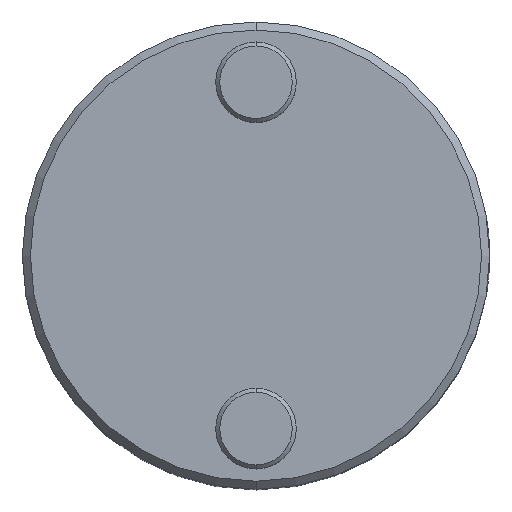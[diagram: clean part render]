
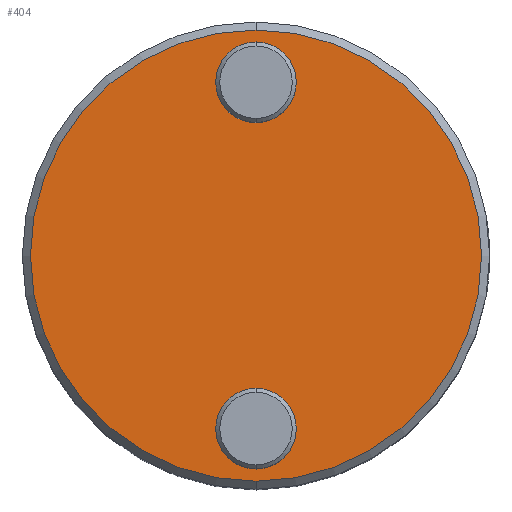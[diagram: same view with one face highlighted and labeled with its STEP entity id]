
A CAD part, top view. The second image highlights one B-rep face of the part: STEP entity #404.
In plain terms, the highlighted planar face has unit normal (0, 0, 1).
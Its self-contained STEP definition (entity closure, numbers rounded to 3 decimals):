
#1=CARTESIAN_POINT('',(0.,0.,
0.));
#2=DIRECTION('',(0.,0.,1.));
#3=DIRECTION('',(0.,1.,0.));
#4=AXIS2_PLACEMENT_3D('',#1,#2,#3);
#6=CARTESIAN_POINT('',(0.,0.,
0.));
#7=DIRECTION('',(0.,0.,1.));
#8=DIRECTION('',(0.,-1.,0.));
#9=AXIS2_PLACEMENT_3D('',#6,#7,#8);
#11=CARTESIAN_POINT('',(0.,21.5,0.));
#12=DIRECTION('',(0.,0.,1.));
#13=DIRECTION('',(0.,1.,0.));
#14=AXIS2_PLACEMENT_3D('',#11,#12,#13);
#16=CARTESIAN_POINT('',(0.,21.5,0.));
#17=DIRECTION('',(0.,0.,1.));
#18=DIRECTION('',(0.,-1.,0.));
#19=AXIS2_PLACEMENT_3D('',#16,#17,#18);
#21=CARTESIAN_POINT('',(0.,-21.5,0.));
#22=DIRECTION('',(0.,0.,1.));
#23=DIRECTION('',(0.,1.,0.));
#24=AXIS2_PLACEMENT_3D('',#21,#22,#23);
#26=CARTESIAN_POINT('',(0.,-21.5,0.));
#27=DIRECTION('',(0.,0.,1.));
#28=DIRECTION('',(0.,-1.,0.));
#29=AXIS2_PLACEMENT_3D('',#26,#27,#28);
#331=CARTESIAN_POINT('',(0.,28.,0.));
#332=CARTESIAN_POINT('',(0.,-28.,0.));
#333=VERTEX_POINT('',#331);
#334=VERTEX_POINT('',#332);
#357=CARTESIAN_POINT('',(0.,26.5,0.));
#358=CARTESIAN_POINT('',(0.,16.5,0.));
#359=VERTEX_POINT('',#357);
#360=VERTEX_POINT('',#358);
#361=CARTESIAN_POINT('',(0.,-16.5,0.));
#362=CARTESIAN_POINT('',(0.,-26.5,0.));
#363=VERTEX_POINT('',#361);
#364=VERTEX_POINT('',#362);
#381=CARTESIAN_POINT('',(0.,0.,0.));
#382=DIRECTION('',(0.,0.,-1.));
#383=DIRECTION('',(0.,-1.,0.));
#384=AXIS2_PLACEMENT_3D('',#381,#382,#383);
#385=PLANE('',#384);
#387=ORIENTED_EDGE('',*,*,#386,.F.);
#389=ORIENTED_EDGE('',*,*,#388,.F.);
#390=EDGE_LOOP('',(#387,#389));
#391=FACE_OUTER_BOUND('',#390,.F.);
#393=ORIENTED_EDGE('',*,*,#392,.T.);
#395=ORIENTED_EDGE('',*,*,#394,.T.);
#396=EDGE_LOOP('',(#393,#395));
#397=FACE_BOUND('',#396,.F.);
#399=ORIENTED_EDGE('',*,*,#398,.T.);
#401=ORIENTED_EDGE('',*,*,#400,.T.);
#402=EDGE_LOOP('',(#399,#401));
#403=FACE_BOUND('',#402,.F.);
#404=ADVANCED_FACE('',(#391,#397,#403),#385,.F.);
#5=CIRCLE('',#4,28.);
#10=CIRCLE('',#9,28.);
#15=CIRCLE('',#14,5.);
#20=CIRCLE('',#19,5.);
#25=CIRCLE('',#24,5.);
#30=CIRCLE('',#29,5.);
#386=EDGE_CURVE('',#333,#334,#5,.T.);
#388=EDGE_CURVE('',#334,#333,#10,.T.);
#392=EDGE_CURVE('',#359,#360,#15,.T.);
#394=EDGE_CURVE('',#360,#359,#20,.T.);
#398=EDGE_CURVE('',#363,#364,#25,.T.);
#400=EDGE_CURVE('',#364,#363,#30,.T.);
